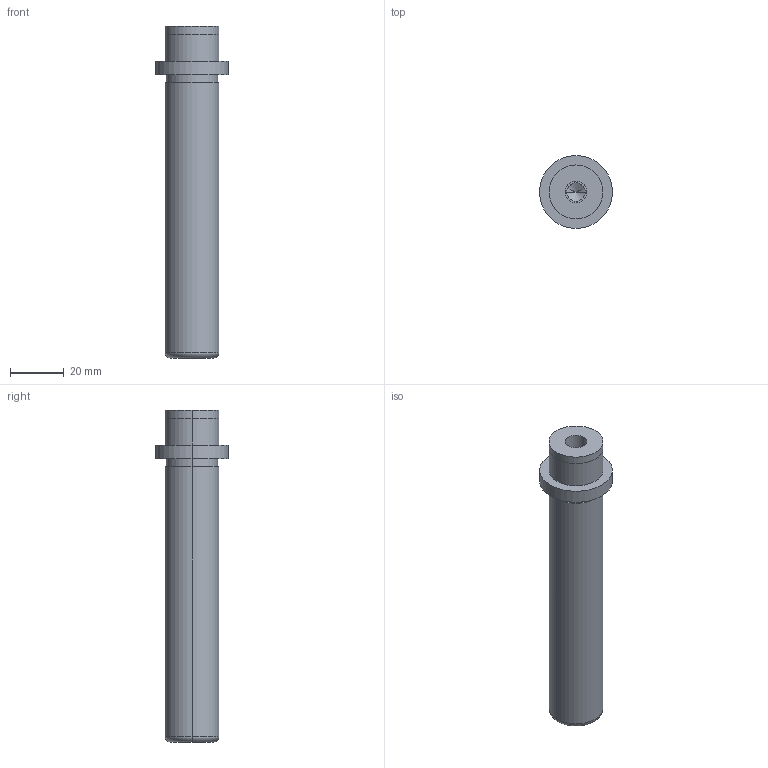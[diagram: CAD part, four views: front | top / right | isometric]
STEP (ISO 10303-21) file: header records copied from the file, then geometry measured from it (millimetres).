
FILE_DESCRIPTION(/* description */ (''),/* implementation_level */ '2;1');
FILE_NAME(/* name */ '3d_sgpw20-110_05257_r00.stp',/* time_stamp */ '2011-01-10T14:11:04+09:00',/* author */ ('MISUMI'),/* organization */ (''),/* preprocessor_version */ 'ST-DEVELOPER v11',/* originating_system */ 'UGS - NX 5.0',/* authorisation */ '');
FILE_SCHEMA (('CONFIG_CONTROL_DESIGN'));
Length unit declared in the file: millimetre
Products named in the file (1): 3d_sgpw20-110_05257_r00
Bounding box: 27 x 27 x 123 mm (x, y, z)
Volume: 37787.8 mm3; surface area: 9981 mm2
Topology: 1 solids, 1 shells, 31 faces, 64 edges, 38 vertices
Faces by surface type: cylinder 18, plane 7, cone 4, torus 2
Entity records: 890 total; most frequent: DIRECTION 162, CARTESIAN_POINT 130, ORIENTED_EDGE 120, AXIS2_PLACEMENT_3D 70, EDGE_CURVE 60, EDGE_LOOP 38, CIRCLE 38, VERTEX_POINT 38
